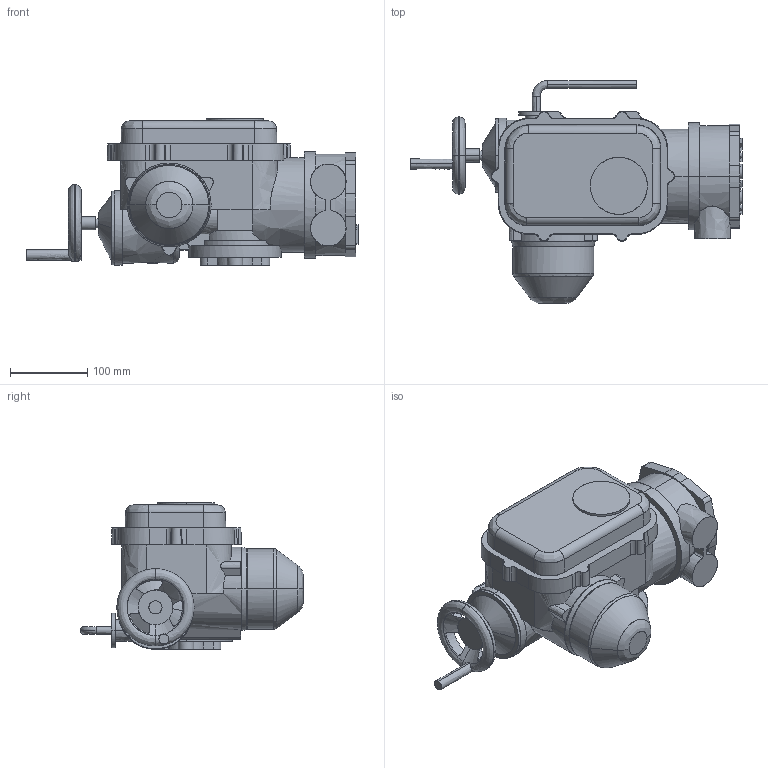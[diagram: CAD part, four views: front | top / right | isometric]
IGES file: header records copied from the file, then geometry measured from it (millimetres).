
Start section: Comment
Global section: file name: Q100SET-1.igs; native system:  By Spatial Corp.; preprocessor: XPlus PS/IGES 3.0; author: Paul Exton; organization: Rotork Controls Ltd; date: 20030616.140937; units: millimetre
Bounding box: 430 x 288.65 x 190 mm (x, y, z)
Surface area: 312950.5 mm2 (no closed solid volume)
Topology: 0 solids, 0 shells, 415 faces, 2364 edges, 2348 vertices
Faces by surface type: bspline 415
